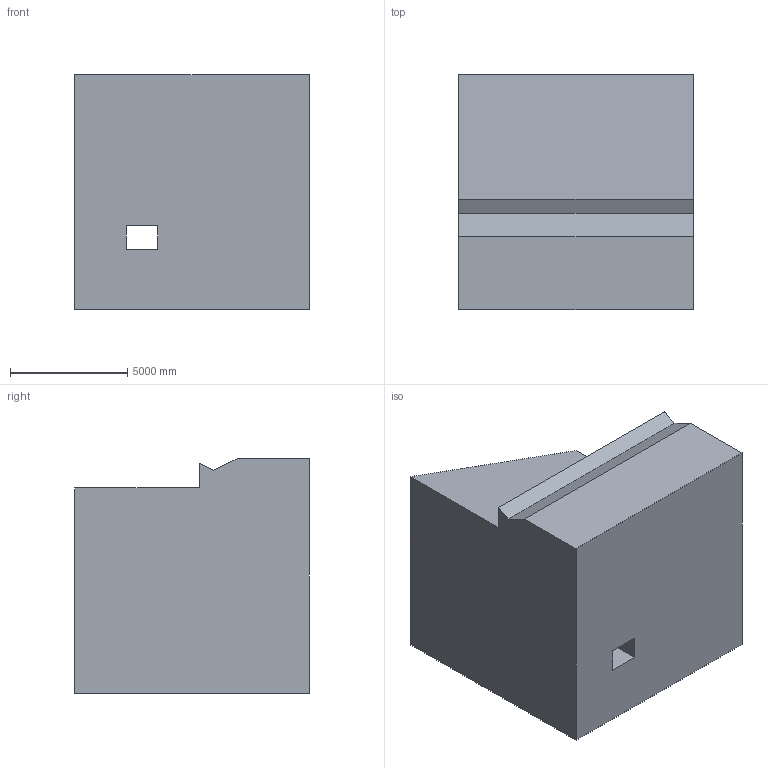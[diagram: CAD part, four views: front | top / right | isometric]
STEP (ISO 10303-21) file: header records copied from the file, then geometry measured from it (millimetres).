
FILE_DESCRIPTION (( 'STEP AP203' ), '1' );
FILE_NAME ('1355.STEP', '2022-08-18T14:00:53', ( 'user' ), ( '' ), 'SwSTEP 2.0', 'SolidWorks 2021', '' );
FILE_SCHEMA (( 'CONFIG_CONTROL_DESIGN' ));
Length unit declared in the file: centimetre
Products named in the file (1): 1355
Bounding box: 10000 x 10000 x 10000 mm (x, y, z)
Volume: 697560288420.1 mm3; surface area: 596498378.8 mm2
Topology: 1 solids, 1 shells, 18 faces, 51 edges, 34 vertices
Faces by surface type: plane 18
Entity records: 656 total; most frequent: CARTESIAN_POINT 104, ORIENTED_EDGE 102, DIRECTION 89, EDGE_CURVE 51, VECTOR 51, LINE 51, VERTEX_POINT 34, AXIS2_PLACEMENT_3D 19
